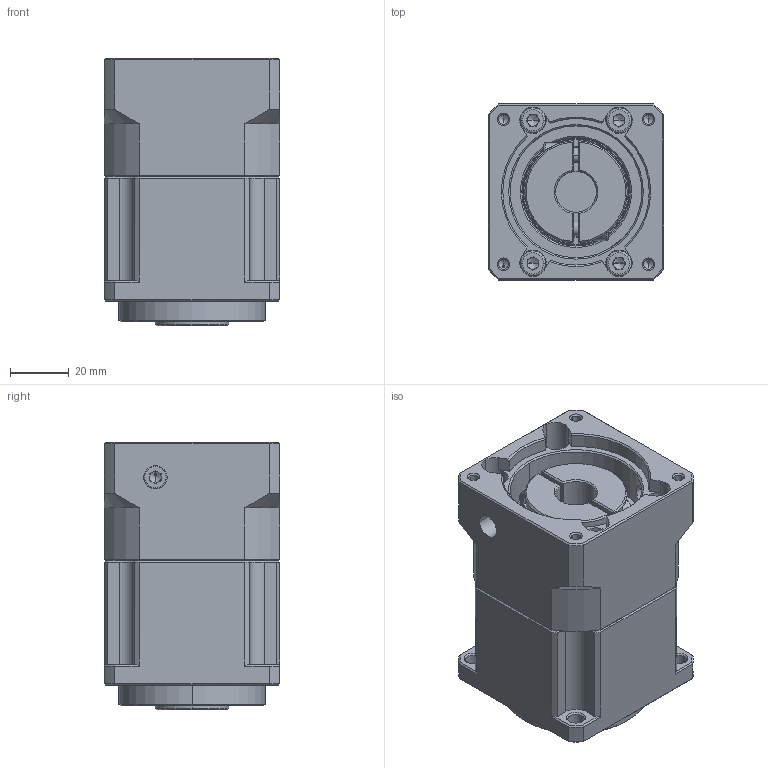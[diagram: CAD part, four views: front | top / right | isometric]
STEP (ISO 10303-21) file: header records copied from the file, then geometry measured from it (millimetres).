
FILE_DESCRIPTION (( 'STEP AP214' ), '1' );
FILE_NAME ('ZPB060-K16-L1-P1-14-50-70-M4.step', '2024-04-24T07:34:44', ( '' ), ( '' ), 'SwSTEP 2.0', 'SolidWorks 2016', '' );
FILE_SCHEMA (( 'AUTOMOTIVE_DESIGN' ));
Length unit declared in the file: millimetre
Products named in the file (1): ZPB060-K16-L1-P1-14-50-70-M4
Bounding box: 60 x 60 x 91.5 mm (x, y, z)
Volume: 242714.5 mm3; surface area: 65368.9 mm2
Topology: 13 solids, 22 shells, 1677 faces, 4771 edges, 3098 vertices
Faces by surface type: plane 867, bspline 315, cylinder 219, cone 138, torus 92, sphere 46
Entity records: 86718 total; most frequent: CARTESIAN_POINT 27506, ORIENTED_EDGE 9240, DIRECTION 7143, EDGE_CURVE 4620, VERTEX_POINT 3029, LINE 2731, VECTOR 2731, AXIS2_PLACEMENT_3D 2206
